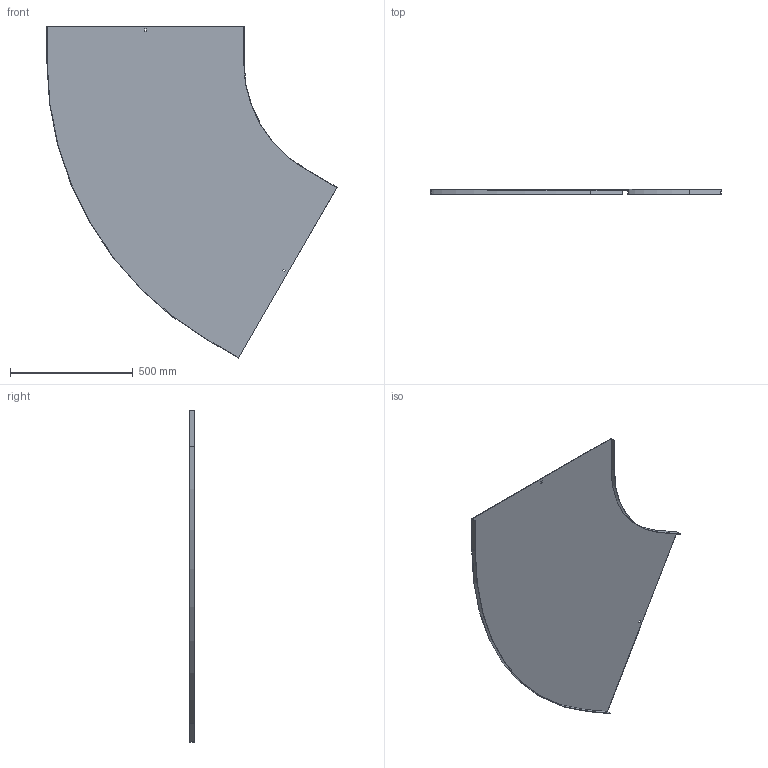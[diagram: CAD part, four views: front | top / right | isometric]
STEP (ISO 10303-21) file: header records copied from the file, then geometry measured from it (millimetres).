
FILE_DESCRIPTION (( 'STEP AP214' ), '1' );
FILE_NAME ('13N5R800.step', '2025-02-21T14:27:25', ( '' ), ( '' ), 'SwSTEP 2.0', 'SolidWorks 2023', '' );
FILE_SCHEMA (( 'AUTOMOTIVE_DESIGN' ));
Length unit declared in the file: millimetre
Products named in the file (1): 13N5R800
Bounding box: 1182.15 x 20 x 1352.13 mm (x, y, z)
Volume: 1565346.5 mm3; surface area: 2093469.1 mm2
Topology: 1 solids, 1 shells, 26 faces, 72 edges, 48 vertices
Faces by surface type: plane 22, cylinder 4
Entity records: 855 total; most frequent: CARTESIAN_POINT 147, ORIENTED_EDGE 144, DIRECTION 134, EDGE_CURVE 72, VECTOR 64, LINE 64, VERTEX_POINT 48, AXIS2_PLACEMENT_3D 35
